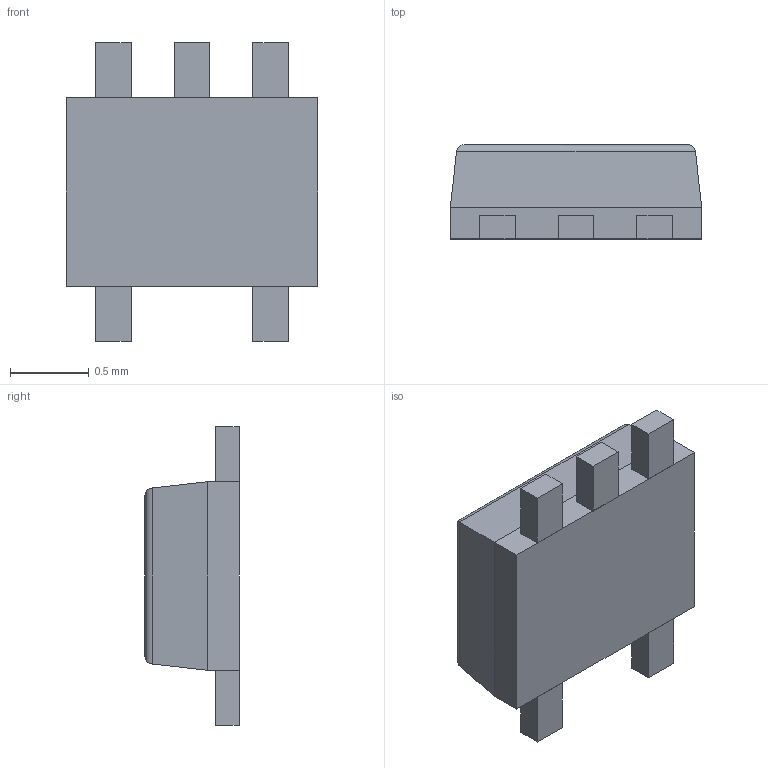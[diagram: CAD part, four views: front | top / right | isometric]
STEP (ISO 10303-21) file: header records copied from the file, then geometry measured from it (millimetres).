
FILE_DESCRIPTION (( 'STEP AP214' ), '1' );
FILE_NAME ( 'SOTFL50P160X60-5.STEP', '2014-04-11T12:31:21', ( '' ), ( '' ), 'FPX Expert 2013', 'PCB Libraries', '' );
FILE_SCHEMA (( 'AUTOMOTIVE_DESIGN' ));
Length unit declared in the file: millimetre
Products named in the file (1): SOTFL50P160X60-5
Bounding box: 1.6 x 0.6 x 1.9 mm (x, y, z)
Volume: 1.2 mm3; surface area: 8.5 mm2
Topology: 6 solids, 6 shells, 47 faces, 94 edges, 60 vertices
Faces by surface type: plane 41, cylinder 4, torus 2
Entity records: 1417 total; most frequent: CARTESIAN_POINT 214, DIRECTION 192, ORIENTED_EDGE 188, EDGE_CURVE 94, VECTOR 84, LINE 84, VERTEX_POINT 60, AXIS2_PLACEMENT_3D 54
